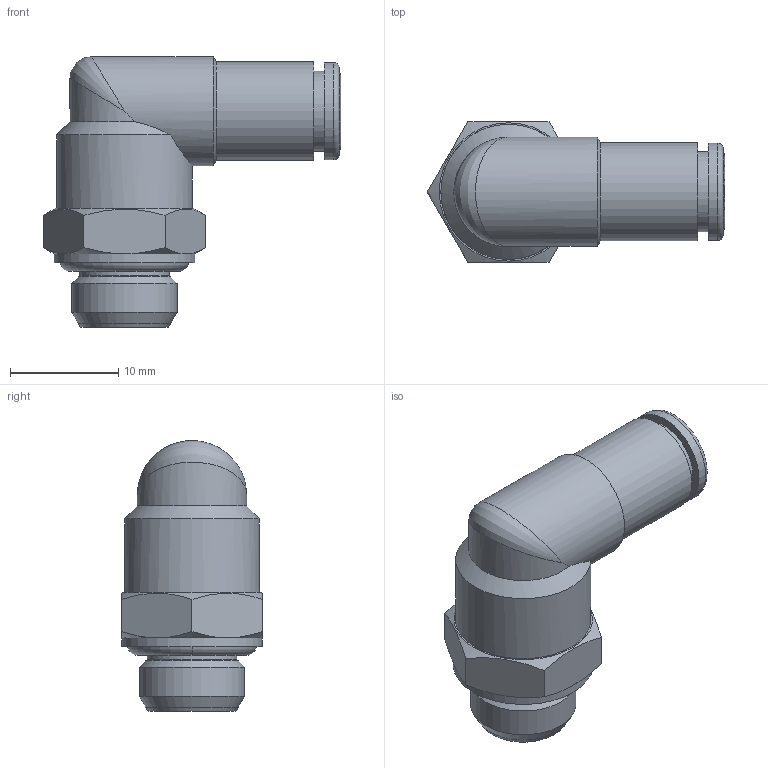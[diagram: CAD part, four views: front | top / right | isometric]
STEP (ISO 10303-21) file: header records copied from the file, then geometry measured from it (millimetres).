
FILE_DESCRIPTION(('Bauteilbeschreibung','HiCAD-Model','HiCAD-STEP-TRANSLATION','Bauteilbeschreibung'),'2;1');
FILE_NAME('B:/ABGLEICH/ZEICHNUNGEN/STEP FÜR INTERNET/STEP/202201_IPSO_022_4_1-8.STP','2011-09-15T10:35:22+00:00',('Konstrukteur'),('Konstrukteur Firma GmbH'),' HiCAD neXt 2008, Step 3.1.1401.2J ','HiCAD neXt 2008','confidential');
FILE_SCHEMA(('AUTOMOTIVE_DESIGN { 1 2 10303 214 0 1 1 1 }'));
Length unit declared in the file: millimetre
Products named in the file (7): A02201_IPSO_022_4_1_8; OR 7_2X1_9; A14602_N2_GEW___1_8_1_8; A146020N20GEW0001080108; G 1_8; DR4_1_NEU; R202201_N2
Assembly tree (6 placements, depth 3):
  A02201_IPSO_022_4_1_8
    OR 7_2X1_9
    A14602_N2_GEW___1_8_1_8
    A146020N20GEW0001080108
      G 1_8
    DR4_1_NEU
    R202201_N2
Bounding box: 27.51 x 13 x 25.05 mm (x, y, z)
Volume: 2568.9 mm3; surface area: 3527.4 mm2
Topology: 5 solids, 5 shells, 77 faces, 165 edges, 98 vertices
Faces by surface type: cone 27, cylinder 23, plane 19, torus 7, bspline 1
Full cylindrical faces by diameter (mm): 3 x1, 4.1 x2, 5.5 x1, 6 x1, 6.4 x1, 7.3 x1, 7.4 x1, 7.6 x1, 8.3 x1, 8.566 x2, 9 x3, 9.1 x1, 9.728 x1, 10.1 x3, 12.5 x1, 13 x1
Entity records: 3562 total; most frequent: CARTESIAN_POINT 1550, DIRECTION 328, ORIENTED_EDGE 206, AXIS2_PLACEMENT_3D 161, EDGE_LOOP 135, EDGE_CURVE 103, COLOUR_RGB 94, PRESENTATION_STYLE_ASSIGNMENT 94
